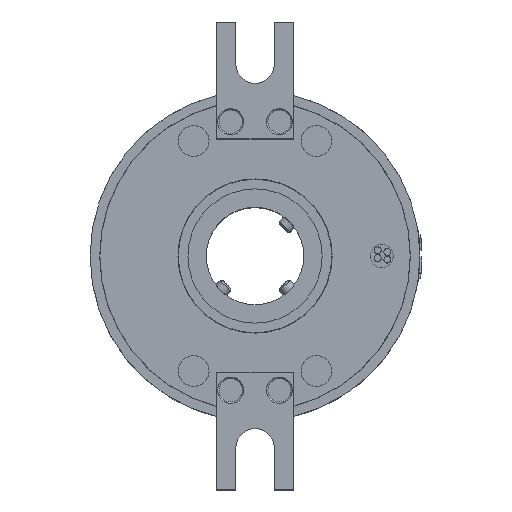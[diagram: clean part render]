
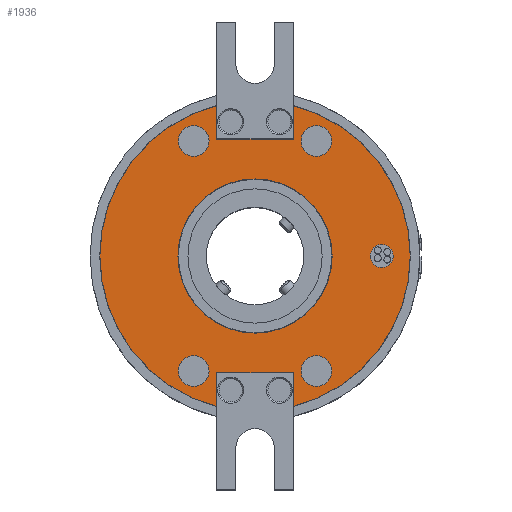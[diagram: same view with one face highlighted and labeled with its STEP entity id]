
A CAD part, top view. The second image highlights one B-rep face of the part: STEP entity #1936.
In plain terms, the highlighted planar face has unit normal (0, 0, 1).
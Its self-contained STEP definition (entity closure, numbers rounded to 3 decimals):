
#229=FACE_BOUND('',#4907,.T.);
#230=FACE_BOUND('',#4908,.T.);
#231=FACE_BOUND('',#4909,.T.);
#232=FACE_BOUND('',#4910,.T.);
#233=FACE_BOUND('',#4911,.T.);
#234=FACE_BOUND('',#4912,.T.);
#235=FACE_BOUND('',#4913,.T.);
#532=CIRCLE('',#16643,4.);
#533=CIRCLE('',#16644,4.);
#534=CIRCLE('',#16645,4.);
#535=CIRCLE('',#16646,4.);
#536=CIRCLE('',#16647,3.);
#537=CIRCLE('',#16648,40.45);
#538=CIRCLE('',#16649,40.45);
#539=CIRCLE('',#16650,20.1);
#962=PLANE('',#16651);
#1218=LINE('',#31625,#3223);
#1219=LINE('',#31628,#3224);
#1220=LINE('',#31630,#3225);
#1221=LINE('',#31634,#3226);
#1222=LINE('',#31636,#3227);
#1223=LINE('',#31638,#3228);
#1936=ADVANCED_FACE('',(#229,#230,#231,#232,#233,#234,#235),#962,.T.);
#3223=VECTOR('',#18255,1.);
#3224=VECTOR('',#18256,1.);
#3225=VECTOR('',#18257,1.);
#3226=VECTOR('',#18260,1.);
#3227=VECTOR('',#18261,1.);
#3228=VECTOR('',#18262,1.);
#4907=EDGE_LOOP('',(#8170));
#4908=EDGE_LOOP('',(#8171));
#4909=EDGE_LOOP('',(#8172));
#4910=EDGE_LOOP('',(#8173));
#4911=EDGE_LOOP('',(#8174));
#4912=EDGE_LOOP('',(#8175,#8176,#8177,#8178,#8179,#8180,#8181,#8182));
#4913=EDGE_LOOP('',(#8183));
#8170=ORIENTED_EDGE('',*,*,#13380,.T.);
#8171=ORIENTED_EDGE('',*,*,#13381,.T.);
#8172=ORIENTED_EDGE('',*,*,#13382,.T.);
#8173=ORIENTED_EDGE('',*,*,#13383,.T.);
#8174=ORIENTED_EDGE('',*,*,#13384,.T.);
#8175=ORIENTED_EDGE('',*,*,#13385,.F.);
#8176=ORIENTED_EDGE('',*,*,#13386,.F.);
#8177=ORIENTED_EDGE('',*,*,#13387,.F.);
#8178=ORIENTED_EDGE('',*,*,#13388,.F.);
#8179=ORIENTED_EDGE('',*,*,#13389,.F.);
#8180=ORIENTED_EDGE('',*,*,#13390,.F.);
#8181=ORIENTED_EDGE('',*,*,#13391,.F.);
#8182=ORIENTED_EDGE('',*,*,#13392,.F.);
#8183=ORIENTED_EDGE('',*,*,#13393,.F.);
#11222=VERTEX_POINT('',#31616);
#11223=VERTEX_POINT('',#31618);
#11224=VERTEX_POINT('',#31620);
#11225=VERTEX_POINT('',#31622);
#11226=VERTEX_POINT('',#31624);
#11227=VERTEX_POINT('',#31626);
#11228=VERTEX_POINT('',#31627);
#11229=VERTEX_POINT('',#31629);
#11230=VERTEX_POINT('',#31631);
#11231=VERTEX_POINT('',#31633);
#11232=VERTEX_POINT('',#31635);
#11233=VERTEX_POINT('',#31637);
#11234=VERTEX_POINT('',#31639);
#11235=VERTEX_POINT('',#31642);
#13380=EDGE_CURVE('',#11222,#11222,#532,.T.);
#13381=EDGE_CURVE('',#11223,#11223,#533,.T.);
#13382=EDGE_CURVE('',#11224,#11224,#534,.T.);
#13383=EDGE_CURVE('',#11225,#11225,#535,.T.);
#13384=EDGE_CURVE('',#11226,#11226,#536,.T.);
#13385=EDGE_CURVE('',#11227,#11228,#1218,.T.);
#13386=EDGE_CURVE('',#11229,#11227,#1219,.T.);
#13387=EDGE_CURVE('',#11230,#11229,#1220,.T.);
#13388=EDGE_CURVE('',#11231,#11230,#537,.T.);
#13389=EDGE_CURVE('',#11232,#11231,#1221,.T.);
#13390=EDGE_CURVE('',#11233,#11232,#1222,.T.);
#13391=EDGE_CURVE('',#11234,#11233,#1223,.T.);
#13392=EDGE_CURVE('',#11228,#11234,#538,.T.);
#13393=EDGE_CURVE('',#11235,#11235,#539,.T.);
#16643=AXIS2_PLACEMENT_3D('',#31615,#18245,#18246);
#16644=AXIS2_PLACEMENT_3D('',#31617,#18247,#18248);
#16645=AXIS2_PLACEMENT_3D('',#31619,#18249,#18250);
#16646=AXIS2_PLACEMENT_3D('',#31621,#18251,#18252);
#16647=AXIS2_PLACEMENT_3D('',#31623,#18253,#18254);
#16648=AXIS2_PLACEMENT_3D('',#31632,#18258,#18259);
#16649=AXIS2_PLACEMENT_3D('',#31640,#18263,#18264);
#16650=AXIS2_PLACEMENT_3D('',#31641,#18265,#18266);
#16651=AXIS2_PLACEMENT_3D('',#31643,#18267,#18268);
#18245=DIRECTION('',(0.,0.,-1.));
#18246=DIRECTION('',(1.,0.,0.));
#18247=DIRECTION('',(0.,0.,-1.));
#18248=DIRECTION('',(1.,0.,0.));
#18249=DIRECTION('',(0.,0.,-1.));
#18250=DIRECTION('',(1.,0.,0.));
#18251=DIRECTION('',(0.,0.,-1.));
#18252=DIRECTION('',(1.,0.,0.));
#18253=DIRECTION('',(0.,0.,-1.));
#18254=DIRECTION('',(0.707,0.707,0.));
#18255=DIRECTION('',(0.,1.,0.));
#18256=DIRECTION('',(1.,0.,0.));
#18257=DIRECTION('',(0.,-1.,0.));
#18258=DIRECTION('',(0.,0.,-1.));
#18259=DIRECTION('',(1.,0.,0.));
#18260=DIRECTION('',(0.,-1.,0.));
#18261=DIRECTION('',(-1.,0.,0.));
#18262=DIRECTION('',(0.,1.,0.));
#18263=DIRECTION('',(0.,0.,-1.));
#18264=DIRECTION('',(1.,0.,0.));
#18265=DIRECTION('',(0.,0.,1.));
#18266=DIRECTION('',(1.,0.,0.));
#18267=DIRECTION('',(0.,0.,1.));
#18268=DIRECTION('',(1.,0.,0.));
#31615=CARTESIAN_POINT('',(-16.,-30.,50.));
#31616=CARTESIAN_POINT('',(-12.,-30.,50.));
#31617=CARTESIAN_POINT('',(16.,-30.,50.));
#31618=CARTESIAN_POINT('',(20.,-30.,50.));
#31619=CARTESIAN_POINT('',(16.,30.,50.));
#31620=CARTESIAN_POINT('',(20.,30.,50.));
#31621=CARTESIAN_POINT('',(-16.,30.,50.));
#31622=CARTESIAN_POINT('',(-12.,30.,50.));
#31623=CARTESIAN_POINT('',(33.,0.,50.));
#31624=CARTESIAN_POINT('',(35.121,2.121,50.));
#31625=CARTESIAN_POINT('',(10.,45.75,50.));
#31626=CARTESIAN_POINT('',(10.,30.5,50.));
#31627=CARTESIAN_POINT('',(10.,39.194,50.));
#31628=CARTESIAN_POINT('',(0.,30.5,50.));
#31629=CARTESIAN_POINT('',(-10.,30.5,50.));
#31630=CARTESIAN_POINT('',(-10.,45.75,50.));
#31631=CARTESIAN_POINT('',(-10.,39.194,50.));
#31632=CARTESIAN_POINT('',(0.,0.,50.));
#31633=CARTESIAN_POINT('',(-10.,-39.194,50.));
#31634=CARTESIAN_POINT('',(-10.,-45.75,50.));
#31635=CARTESIAN_POINT('',(-10.,-30.5,50.));
#31636=CARTESIAN_POINT('',(0.,-30.5,50.));
#31637=CARTESIAN_POINT('',(10.,-30.5,50.));
#31638=CARTESIAN_POINT('',(10.,-45.75,50.));
#31639=CARTESIAN_POINT('',(10.,-39.194,50.));
#31640=CARTESIAN_POINT('',(0.,0.,50.));
#31641=CARTESIAN_POINT('',(0.,0.,50.));
#31642=CARTESIAN_POINT('',(20.1,0.,50.));
#31643=CARTESIAN_POINT('',(0.,0.,50.));
